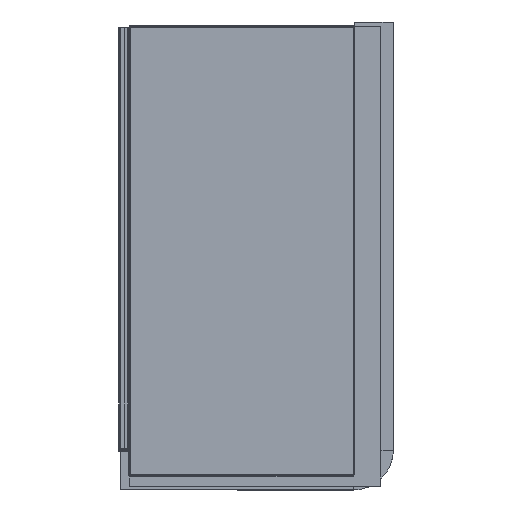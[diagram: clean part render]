
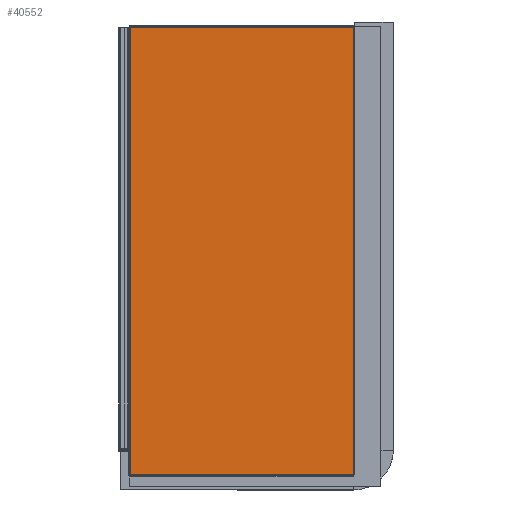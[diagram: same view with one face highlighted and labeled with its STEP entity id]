
A CAD part, left-side view. The second image highlights one B-rep face of the part: STEP entity #40552.
In plain terms, the highlighted planar face has unit normal (-1, 0, 0) as drawn and (0, 0, -1) by its records, which use the part's own axes.
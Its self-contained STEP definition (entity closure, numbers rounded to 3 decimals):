
#40420=CARTESIAN_POINT('Line Origine',(126.285,-5.77,0.)) ;
#40424=CARTESIAN_POINT('Vertex',(-11.434,-5.77,0.)) ;
#40426=CARTESIAN_POINT('Vertex',(11.52,-5.77,0.)) ;
#40522=CARTESIAN_POINT('Axis2P3D Location',(0.,0.,0.)) ;
#40527=CARTESIAN_POINT('Line Origine',(0.043,5.684,0.)) ;
#40531=CARTESIAN_POINT('Vertex',(11.52,5.684,0.)) ;
#40533=CARTESIAN_POINT('Vertex',(-11.434,5.684,0.)) ;
#40536=CARTESIAN_POINT('Line Origine',(11.52,-0.043,0.)) ;
#40541=CARTESIAN_POINT('Line Origine',(-11.434,-0.043,0.)) ;
#40421=DIRECTION('Vector Direction',(-1.,0.,0.)) ;
#40523=DIRECTION('Axis2P3D Direction',(0.,0.,-1.)) ;
#40524=DIRECTION('Axis2P3D XDirection',(1.,0.,0.)) ;
#40528=DIRECTION('Vector Direction',(-1.,0.,0.)) ;
#40537=DIRECTION('Vector Direction',(0.,1.,0.)) ;
#40542=DIRECTION('Vector Direction',(0.,-1.,0.)) ;
#40525=AXIS2_PLACEMENT_3D('Plane Axis2P3D',#40522,#40523,#40524) ;
#40547=ORIENTED_EDGE('',*,*,#40535,.F.) ;
#40548=ORIENTED_EDGE('',*,*,#40540,.F.) ;
#40549=ORIENTED_EDGE('',*,*,#40428,.F.) ;
#40550=ORIENTED_EDGE('',*,*,#40545,.F.) ;
#40422=VECTOR('Line Direction',#40421,0.039) ;
#40529=VECTOR('Line Direction',#40528,0.039) ;
#40538=VECTOR('Line Direction',#40537,0.039) ;
#40543=VECTOR('Line Direction',#40542,0.039) ;
#40552=ADVANCED_FACE('<36275>-<Cut-Extrude3>',(#40551),#40526,.T.) ;
#40428=EDGE_CURVE('',#40425,#40427,#40423,.F.) ;
#40535=EDGE_CURVE('',#40532,#40534,#40530,.T.) ;
#40540=EDGE_CURVE('',#40427,#40532,#40539,.T.) ;
#40545=EDGE_CURVE('',#40534,#40425,#40544,.T.) ;
#40546=EDGE_LOOP('',(#40547,#40548,#40549,#40550)) ;
#40551=FACE_OUTER_BOUND('',#40546,.T.) ;
#40423=LINE('Line',#40420,#40422) ;
#40530=LINE('Line',#40527,#40529) ;
#40539=LINE('Line',#40536,#40538) ;
#40544=LINE('Line',#40541,#40543) ;
#40526=PLANE('',#40525) ;
#40425=VERTEX_POINT('',#40424) ;
#40427=VERTEX_POINT('',#40426) ;
#40532=VERTEX_POINT('',#40531) ;
#40534=VERTEX_POINT('',#40533) ;
